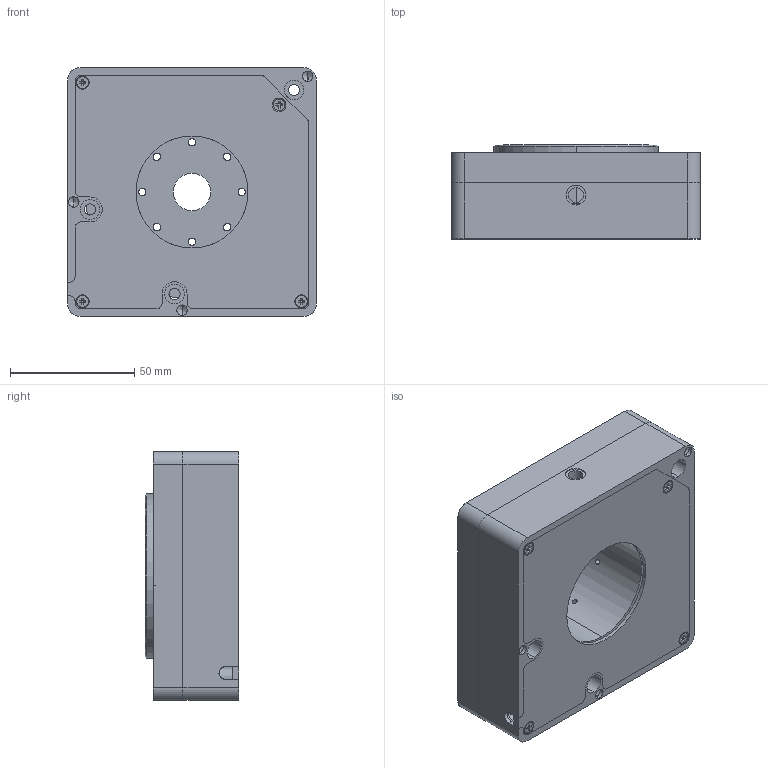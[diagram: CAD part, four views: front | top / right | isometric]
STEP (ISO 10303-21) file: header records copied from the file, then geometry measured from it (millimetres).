
FILE_DESCRIPTION (( 'STEP AP214' ), '1' );
FILE_NAME ('NSPM.50.01.000.01ÑÁ - Ñòåéäæ â ñáîðå.STEP', '2014-03-28T11:20:05', ( '' ), ( '' ), 'SwSTEP 2.0', 'SolidWorks 2013', '' );
FILE_SCHEMA (( 'AUTOMOTIVE_DESIGN' ));
Length unit declared in the file: millimetre
Products named in the file (1): NSPM.50.01.000.01ÑÁ - Ñòåéäæ â ñáîðå
Bounding box: 100 x 37.7 x 100 mm (x, y, z)
Surface area: 62371.4 mm2 (no closed solid volume)
Topology: 0 solids, 15 shells, 287 faces, 1115 edges, 835 vertices
Faces by surface type: cylinder 140, plane 110, cone 34, bspline 3
Entity records: 16613 total; most frequent: CARTESIAN_POINT 4088, DIRECTION 2001, ORIENTED_EDGE 1690, EDGE_CURVE 1103, VERTEX_POINT 835, AXIS2_PLACEMENT_3D 728, VECTOR 545, LINE 545
